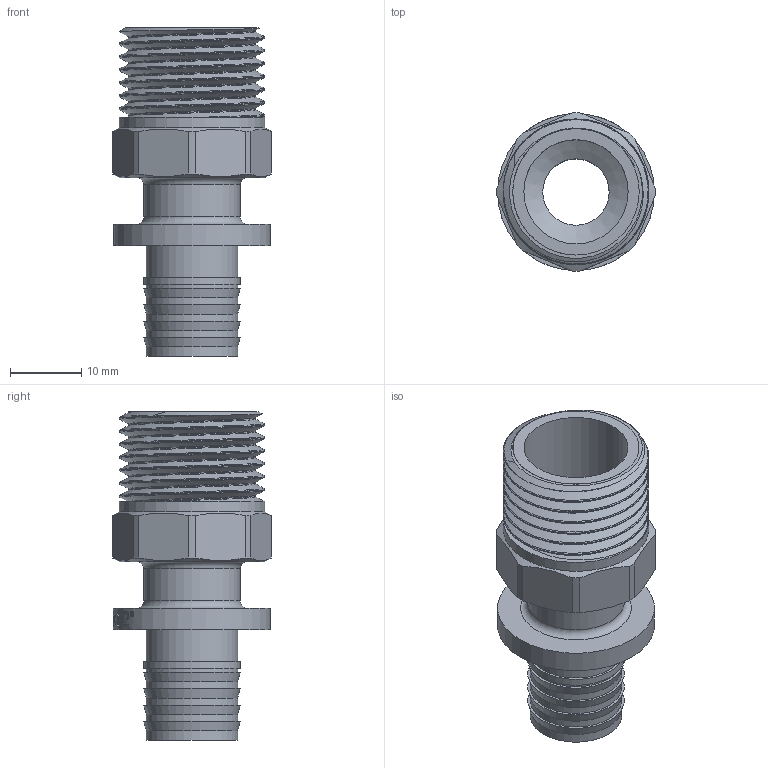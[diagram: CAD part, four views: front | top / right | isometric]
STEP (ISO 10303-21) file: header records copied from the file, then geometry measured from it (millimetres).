
FILE_DESCRIPTION(/* description */ (''),/* implementation_level */ '2;1');
FILE_NAME(/* name */ 'C:\Users\Doom\Desktop\Фадотех\Натяжка\FD-SFM11 20.04.2020\16 Model 18.12.2019.stp',/* time_stamp */ '2022-07-22T17:14:56+03:00',/* author */ ('Doom'),/* organization */ (''),/* preprocessor_version */ 'ST-DEVELOPER v18',/* originating_system */ 'Autodesk Inventor 2020',/* authorisation */ '');
FILE_SCHEMA (('AUTOMOTIVE_DESIGN { 1 0 10303 214 3 1 1 }'));
Length unit declared in the file: millimetre
Products named in the file (1): FADO-SFM11 20.04.2020
Bounding box: 22.2 x 22.2 x 46 mm (x, y, z)
Volume: 5697.3 mm3; surface area: 7227.5 mm2
Topology: 2 solids, 2 shells, 181 faces, 495 edges, 339 vertices
Faces by surface type: plane 69, bspline 61, cylinder 40, cone 9, torus 2
Full cylindrical faces by diameter (mm): 9.3 x1, 12.8 x6, 13.5 x2, 14.598 x1, 17.71 x2, 20.4 x6, 22 x1
Entity records: 10883 total; most frequent: CARTESIAN_POINT 6561, ORIENTED_EDGE 990, DIRECTION 730, EDGE_CURVE 495, VERTEX_POINT 339, AXIS2_PLACEMENT_3D 273, EDGE_LOOP 206, LINE 184
